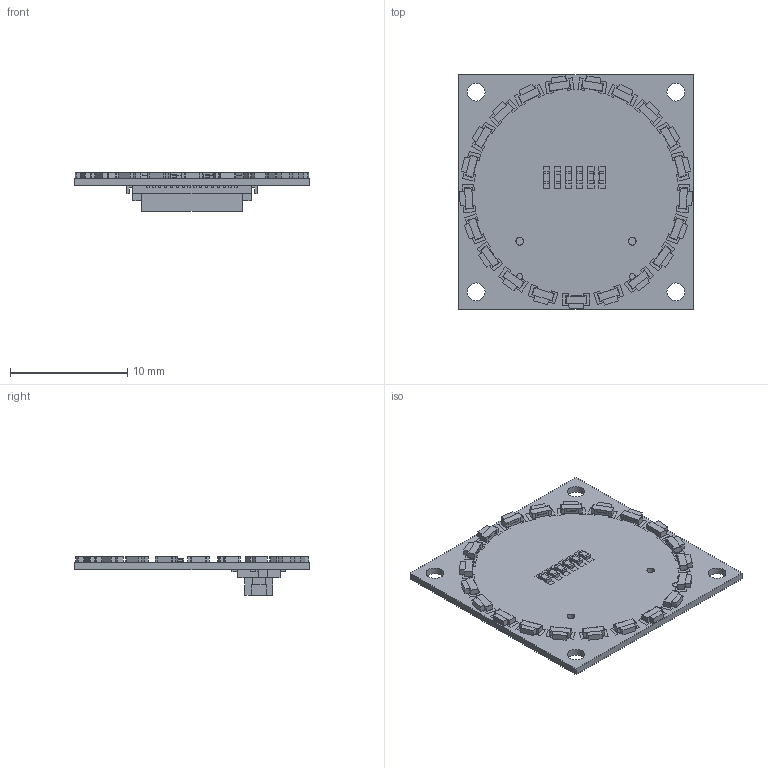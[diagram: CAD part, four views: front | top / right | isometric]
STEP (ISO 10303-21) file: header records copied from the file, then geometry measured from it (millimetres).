
FILE_DESCRIPTION(('FreeCAD Model'),'2;1');
FILE_NAME('/home/devy/MEGA/TinyCircuits/Assets/BoardsANDBoardModels_2/Shields/TinyCircuits-TinyShield-Circle_Leds-ASD2412/cad/TinyShield_CIRCLE_LEDS_ASD2412_REV1-STEP.step','2020-07-15T02:14:06',('Author'),('' ),'Open CASCADE STEP processor 7.4','FreeCAD','Unknown');
FILE_SCHEMA(('AUTOMOTIVE_DESIGN { 1 0 10303 214 1 1 1 1 }'));
Products named in the file (1): TinyShield_CIRCLE_LEDS_ASD2412_REV1-STEP
Bounding box: 20 x 20 x 3.3 mm (x, y, z)
Volume: 617.4 mm3; surface area: 2419.2 mm2
Topology: 246 solids, 246 shells, 2682 faces, 6216 edges, 4026 vertices
Faces by surface type: plane 2666, cylinder 16
Full cylindrical faces by diameter (mm): 0.5 x4, 0.652 x4, 1.502 x8
Entity records: 174701 total; most frequent: CARTESIAN_POINT 25519, DIRECTION 24016, LINE 18574, VECTOR 18574, ORIENTED_EDGE 12432, PCURVE 12432, DEFINITIONAL_REPRESENTATION 12432, EDGE_CURVE 6216
